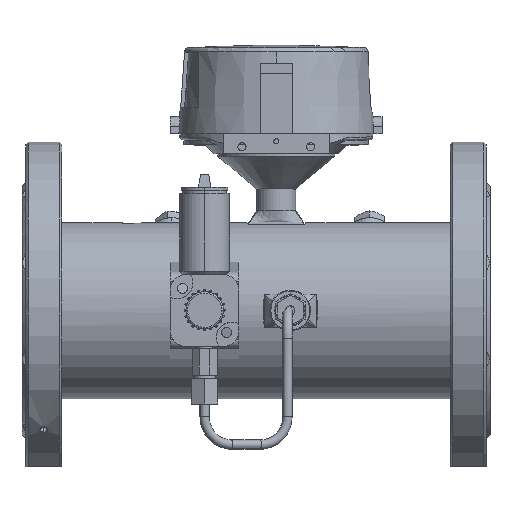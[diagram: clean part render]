
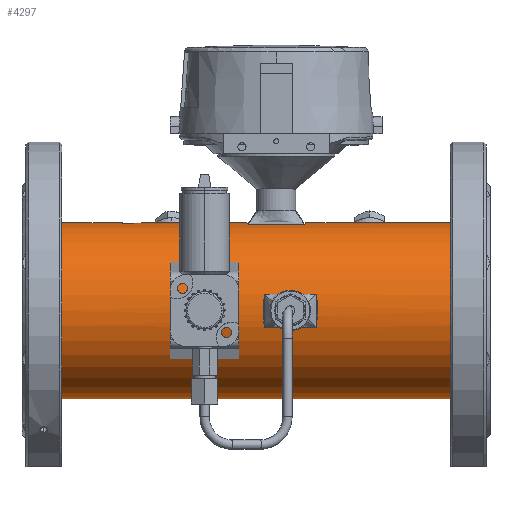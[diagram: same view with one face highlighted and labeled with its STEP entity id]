
A CAD part, top view. The second image highlights one B-rep face of the part: STEP entity #4297.
In plain terms, the highlighted cylindrical face has radius 56.5 mm (diameter 113 mm), a partial arc.
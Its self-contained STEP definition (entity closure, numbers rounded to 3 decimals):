
#3331=CARTESIAN_POINT('',(148.5,10.583,55.5));
#3332=CARTESIAN_POINT('',(147.155,3.528,56.845));
#3333=CARTESIAN_POINT('',(147.155,-3.528,56.845));
#3334=CARTESIAN_POINT('',(148.5,-10.583,55.5));
#3339=DIRECTION('',(1.,0.,0.));
#3340=VECTOR('',#3339,33.);
#3341=CARTESIAN_POINT('',(148.5,-10.583,55.5));
#3342=LINE('',#3341,#3340);
#3346=CARTESIAN_POINT('',(181.5,-10.583,55.5));
#3347=CARTESIAN_POINT('',(182.845,-3.528,56.845));
#3348=CARTESIAN_POINT('',(182.845,3.528,56.845));
#3349=CARTESIAN_POINT('',(181.5,10.583,55.5));
#3354=DIRECTION('',(1.,0.,0.));
#3355=VECTOR('',#3354,33.);
#3356=CARTESIAN_POINT('',(148.5,10.583,55.5));
#3357=LINE('',#3356,#3355);
#3361=CARTESIAN_POINT('',(37.226,0.,0.));
#3362=DIRECTION('',(1.,0.,0.));
#3363=DIRECTION('',(0.,1.,0.));
#3364=AXIS2_PLACEMENT_3D('',#3361,#3362,#3363);
#3369=DIRECTION('',(1.,0.,0.));
#3370=VECTOR('',#3369,20.);
#3371=CARTESIAN_POINT('',(37.226,56.42,3.));
#3372=LINE('',#3371,#3370);
#3376=CARTESIAN_POINT('',(57.226,0.,0.));
#3377=DIRECTION('',(1.,0.,0.));
#3378=DIRECTION('',(0.,0.999,0.053));
#3379=AXIS2_PLACEMENT_3D('',#3376,#3377,#3378);
#3384=CARTESIAN_POINT('',(74.547,56.5,0.));
#3385=CARTESIAN_POINT('',(68.762,56.5,3.34));
#3386=CARTESIAN_POINT('',(62.988,56.206,6.673));
#3387=CARTESIAN_POINT('',(57.226,55.608,10.));
#3392=CARTESIAN_POINT('',(137.,56.5,0.));
#3393=CARTESIAN_POINT('',(137.,56.5,3.59));
#3394=CARTESIAN_POINT('',(137.339,56.161,7.117));
#3395=CARTESIAN_POINT('',(138.,55.5,10.583));
#3400=DIRECTION('',(1.,0.,0.));
#3401=VECTOR('',#3400,36.);
#3402=CARTESIAN_POINT('',(138.,55.5,10.583));
#3403=LINE('',#3402,#3401);
#3407=CARTESIAN_POINT('',(175.,56.5,0.));
#3408=CARTESIAN_POINT('',(175.,56.5,3.59));
#3409=CARTESIAN_POINT('',(174.661,56.161,7.117));
#3410=CARTESIAN_POINT('',(174.,55.5,10.583));
#3415=CARTESIAN_POINT('',(287.,0.,0.));
#3416=DIRECTION('',(1.,0.,0.));
#3417=DIRECTION('',(0.,1.,0.));
#3418=AXIS2_PLACEMENT_3D('',#3415,#3416,#3417);
#3521=CARTESIAN_POINT('',(0.,0.,0.));
#3522=DIRECTION('',(1.,0.,0.));
#3523=DIRECTION('',(0.,1.,0.));
#3524=AXIS2_PLACEMENT_3D('',#3521,#3522,#3523);
#3636=DIRECTION('',(-1.,0.,0.));
#3637=VECTOR('',#3636,37.226);
#3638=CARTESIAN_POINT('',(37.226,56.5,0.));
#3639=LINE('',#3638,#3637);
#3643=DIRECTION('',(-1.,0.,0.));
#3644=VECTOR('',#3643,287.);
#3645=CARTESIAN_POINT('',(287.,-56.5,0.));
#3646=LINE('',#3645,#3644);
#3658=DIRECTION('',(-1.,0.,0.));
#3659=VECTOR('',#3658,112.);
#3660=CARTESIAN_POINT('',(287.,56.5,0.));
#3661=LINE('',#3660,#3659);
#3688=DIRECTION('',(-1.,0.,0.));
#3689=VECTOR('',#3688,62.453);
#3690=CARTESIAN_POINT('',(137.,56.5,0.));
#3691=LINE('',#3690,#3689);
#4130=CARTESIAN_POINT('',(287.,-56.5,0.));
#4131=CARTESIAN_POINT('',(0.,-56.5,0.));
#4132=VERTEX_POINT('',#4130);
#4133=VERTEX_POINT('',#4131);
#4134=CARTESIAN_POINT('',(287.,56.5,0.));
#4135=VERTEX_POINT('',#4134);
#4136=CARTESIAN_POINT('',(0.,56.5,0.));
#4137=VERTEX_POINT('',#4136);
#4138=VERTEX_POINT('',#3392);
#4139=VERTEX_POINT('',#3395);
#4140=CARTESIAN_POINT('',(174.,55.5,10.583));
#4141=VERTEX_POINT('',#4140);
#4142=VERTEX_POINT('',#3407);
#4158=VERTEX_POINT('',#3331);
#4159=VERTEX_POINT('',#3334);
#4160=VERTEX_POINT('',#3346);
#4161=VERTEX_POINT('',#3349);
#4216=CARTESIAN_POINT('',(37.226,56.5,0.));
#4217=CARTESIAN_POINT('',(37.226,56.42,3.));
#4218=VERTEX_POINT('',#4216);
#4219=VERTEX_POINT('',#4217);
#4220=CARTESIAN_POINT('',(57.226,56.42,3.));
#4221=VERTEX_POINT('',#4220);
#4222=CARTESIAN_POINT('',(57.226,55.608,10.));
#4223=VERTEX_POINT('',#4222);
#4224=VERTEX_POINT('',#3384);
#4255=CARTESIAN_POINT('',(-14.35,0.,0.));
#4256=DIRECTION('',(1.,0.,0.));
#4257=DIRECTION('',(0.,-1.,0.));
#4258=AXIS2_PLACEMENT_3D('',#4255,#4256,#4257);
#4259=CYLINDRICAL_SURFACE('',#4258,56.5);
#4261=ORIENTED_EDGE('',*,*,#4260,.T.);
#4263=ORIENTED_EDGE('',*,*,#4262,.T.);
#4265=ORIENTED_EDGE('',*,*,#4264,.T.);
#4267=ORIENTED_EDGE('',*,*,#4266,.F.);
#4269=ORIENTED_EDGE('',*,*,#4268,.F.);
#4271=ORIENTED_EDGE('',*,*,#4270,.T.);
#4273=ORIENTED_EDGE('',*,*,#4272,.T.);
#4275=ORIENTED_EDGE('',*,*,#4274,.F.);
#4277=ORIENTED_EDGE('',*,*,#4276,.F.);
#4278=ORIENTED_EDGE('',*,*,#4235,.T.);
#4280=ORIENTED_EDGE('',*,*,#4279,.T.);
#4282=ORIENTED_EDGE('',*,*,#4281,.F.);
#4284=ORIENTED_EDGE('',*,*,#4283,.F.);
#4285=EDGE_LOOP('',(#4261,#4263,#4265,#4267,#4269,#4271,#4273,#4275,#4277,#4278,
#4280,#4282,#4284));
#4286=FACE_OUTER_BOUND('',#4285,.F.);
#4288=ORIENTED_EDGE('',*,*,#4287,.T.);
#4290=ORIENTED_EDGE('',*,*,#4289,.T.);
#4292=ORIENTED_EDGE('',*,*,#4291,.T.);
#4294=ORIENTED_EDGE('',*,*,#4293,.F.);
#4295=EDGE_LOOP('',(#4288,#4290,#4292,#4294));
#4296=FACE_BOUND('',#4295,.F.);
#3335=B_SPLINE_CURVE_WITH_KNOTS('',3,(#3331,#3332,#3333,#3334),.UNSPECIFIED.,
.F.,.F.,(4,4),(0.,1.),.UNSPECIFIED.);
#3350=B_SPLINE_CURVE_WITH_KNOTS('',3,(#3346,#3347,#3348,#3349),.UNSPECIFIED.,
.F.,.F.,(4,4),(0.,1.),.UNSPECIFIED.);
#3365=CIRCLE('',#3364,56.5);
#3380=CIRCLE('',#3379,56.5);
#3388=B_SPLINE_CURVE_WITH_KNOTS('',3,(#3384,#3385,#3386,#3387),.UNSPECIFIED.,
.F.,.F.,(4,4),(0.,1.),.UNSPECIFIED.);
#3396=B_SPLINE_CURVE_WITH_KNOTS('',3,(#3392,#3393,#3394,#3395),.UNSPECIFIED.,
.F.,.F.,(4,4),(0.,1.),.UNSPECIFIED.);
#3411=B_SPLINE_CURVE_WITH_KNOTS('',3,(#3407,#3408,#3409,#3410),.UNSPECIFIED.,
.F.,.F.,(4,4),(0.,1.),.UNSPECIFIED.);
#3419=CIRCLE('',#3418,56.5);
#3525=CIRCLE('',#3524,56.5);
#4235=EDGE_CURVE('',#4135,#4132,#3419,.T.);
#4260=EDGE_CURVE('',#4218,#4219,#3365,.T.);
#4262=EDGE_CURVE('',#4219,#4221,#3372,.T.);
#4264=EDGE_CURVE('',#4221,#4223,#3380,.T.);
#4266=EDGE_CURVE('',#4224,#4223,#3388,.T.);
#4268=EDGE_CURVE('',#4138,#4224,#3691,.T.);
#4270=EDGE_CURVE('',#4138,#4139,#3396,.T.);
#4272=EDGE_CURVE('',#4139,#4141,#3403,.T.);
#4274=EDGE_CURVE('',#4142,#4141,#3411,.T.);
#4276=EDGE_CURVE('',#4135,#4142,#3661,.T.);
#4279=EDGE_CURVE('',#4132,#4133,#3646,.T.);
#4281=EDGE_CURVE('',#4137,#4133,#3525,.T.);
#4283=EDGE_CURVE('',#4218,#4137,#3639,.T.);
#4287=EDGE_CURVE('',#4158,#4159,#3335,.T.);
#4289=EDGE_CURVE('',#4159,#4160,#3342,.T.);
#4291=EDGE_CURVE('',#4160,#4161,#3350,.T.);
#4293=EDGE_CURVE('',#4158,#4161,#3357,.T.);
#4297=ADVANCED_FACE('',(#4286,#4296),#4259,.T.);
